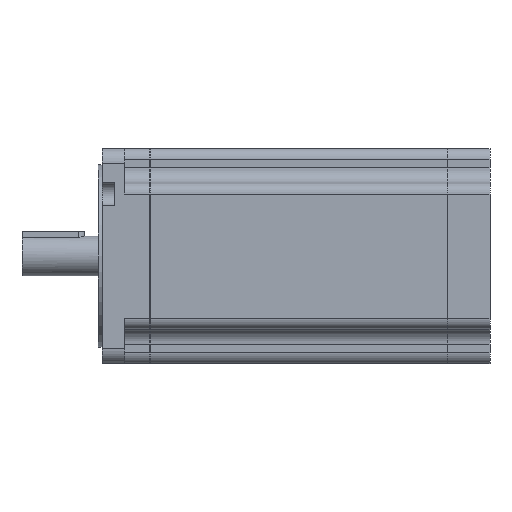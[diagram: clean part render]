
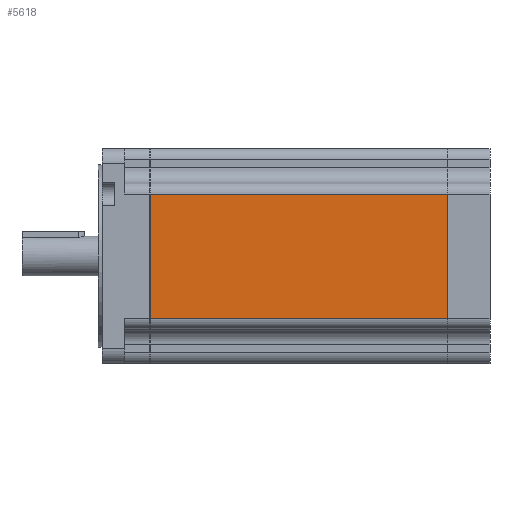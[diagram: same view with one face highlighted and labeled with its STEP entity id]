
A CAD part, left-side view. The second image highlights one B-rep face of the part: STEP entity #5618.
In plain terms, the highlighted planar face has unit normal (-1, 0, 0).
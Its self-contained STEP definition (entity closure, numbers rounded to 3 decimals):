
#298 = LINE ( 'NONE', #849, #1186 ) ;
#462 = DIRECTION ( 'NONE',  ( 0., -1., 0. ) ) ;
#496 = AXIS2_PLACEMENT_3D ( 'NONE', #4765, #4739, #4715 ) ;
#508 = EDGE_CURVE ( 'NONE', #5376, #2082, #3006, .T. ) ;
#531 = CARTESIAN_POINT ( 'NONE',  ( 0., 0., -67.8 ) ) ;
#735 = CARTESIAN_POINT ( 'NONE',  ( 0., 0., -67.8 ) ) ;
#849 = CARTESIAN_POINT ( 'NONE',  ( 0., 119., -67.8 ) ) ;
#1131 = CARTESIAN_POINT ( 'NONE',  ( 0., 119., -67.8 ) ) ;
#1186 = VECTOR ( 'NONE', #2314, 1000. ) ;
#1253 = EDGE_LOOP ( 'NONE', ( #4402, #3980, #4577, #1458 ) ) ;
#1419 = DIRECTION ( 'NONE',  ( 0., -1., 0. ) ) ;
#1458 = ORIENTED_EDGE ( 'NONE', *, *, #3491, .T. ) ;
#1729 = FACE_OUTER_BOUND ( 'NONE', #1253, .T. ) ;
#1748 = VERTEX_POINT ( 'NONE', #531 ) ;
#2082 = VERTEX_POINT ( 'NONE', #4528 ) ;
#2258 = CARTESIAN_POINT ( 'NONE',  ( 0., 119., -18.2 ) ) ;
#2314 = DIRECTION ( 'NONE',  ( 0., 0., 1. ) ) ;
#2372 = VECTOR ( 'NONE', #1419, 1000. ) ;
#2810 = VECTOR ( 'NONE', #462, 1000. ) ;
#3006 = LINE ( 'NONE', #2258, #2372 ) ;
#3284 = VECTOR ( 'NONE', #5068, 1000. ) ;
#3491 = EDGE_CURVE ( 'NONE', #4212, #1748, #3905, .T. ) ;
#3557 = EDGE_CURVE ( 'NONE', #4212, #5376, #298, .T. ) ;
#3905 = LINE ( 'NONE', #5491, #2810 ) ;
#3980 = ORIENTED_EDGE ( 'NONE', *, *, #508, .F. ) ;
#4176 = CARTESIAN_POINT ( 'NONE',  ( 0., 119., -18.2 ) ) ;
#4212 = VERTEX_POINT ( 'NONE', #1131 ) ;
#4402 = ORIENTED_EDGE ( 'NONE', *, *, #5729, .T. ) ;
#4528 = CARTESIAN_POINT ( 'NONE',  ( 0., 0., -18.2 ) ) ;
#4577 = ORIENTED_EDGE ( 'NONE', *, *, #3557, .F. ) ;
#4715 = DIRECTION ( 'NONE',  ( 0., 0., -1. ) ) ;
#4739 = DIRECTION ( 'NONE',  ( 1., 0., 0. ) ) ;
#4765 = CARTESIAN_POINT ( 'NONE',  ( 0., 119., -67.8 ) ) ;
#4819 = PLANE ( 'NONE',  #496 ) ;
#5068 = DIRECTION ( 'NONE',  ( 0., 0., 1. ) ) ;
#5376 = VERTEX_POINT ( 'NONE', #4176 ) ;
#5491 = CARTESIAN_POINT ( 'NONE',  ( 0., 119., -67.8 ) ) ;
#5618 = ADVANCED_FACE ( 'NONE', ( #1729 ), #4819, .F. ) ;
#5729 = EDGE_CURVE ( 'NONE', #1748, #2082, #5817, .T. ) ;
#5817 = LINE ( 'NONE', #735, #3284 ) ;
